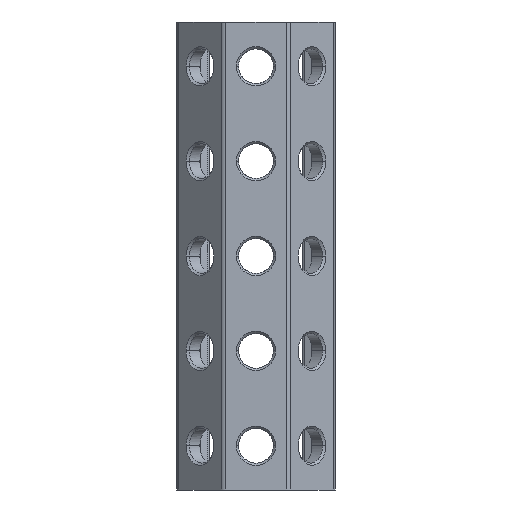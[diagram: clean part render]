
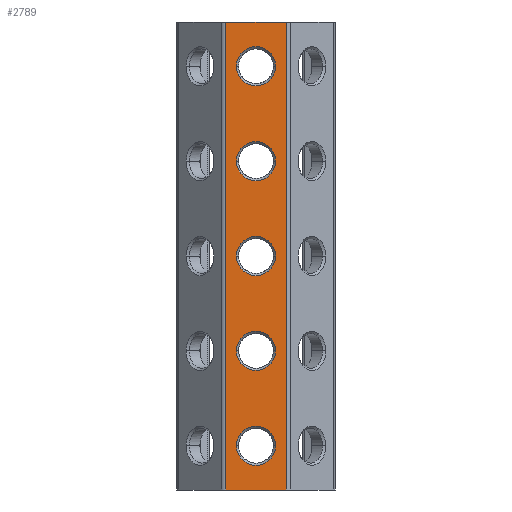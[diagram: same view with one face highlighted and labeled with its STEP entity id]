
A CAD part, left-side view. The second image highlights one B-rep face of the part: STEP entity #2789.
In plain terms, the highlighted planar face has unit normal (-1, 0, 0).
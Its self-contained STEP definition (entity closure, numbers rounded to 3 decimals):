
#789=CARTESIAN_POINT('Vertex',(-25.,-9.527,-148.)) ;
#794=CARTESIAN_POINT('Line Origine',(-25.,0.,-148.)) ;
#798=CARTESIAN_POINT('Vertex',(-25.,9.527,-148.)) ;
#1503=CARTESIAN_POINT('Vertex',(-25.,9.527,0.)) ;
#1506=CARTESIAN_POINT('Line Origine',(-25.,0.,0.)) ;
#1510=CARTESIAN_POINT('Vertex',(-25.,-9.527,0.)) ;
#2410=CARTESIAN_POINT('Line Origine',(-25.,9.527,-4078.)) ;
#2636=CARTESIAN_POINT('Line Origine',(-25.,-9.527,-4078.)) ;
#2648=CARTESIAN_POINT('Axis2P3D Location',(-25.,0.,-4078.)) ;
#2659=CARTESIAN_POINT('Axis2P3D Location',(-25.,0.,-14.)) ;
#2663=CARTESIAN_POINT('Vertex',(-25.,-3.1,-19.369)) ;
#2665=CARTESIAN_POINT('Vertex',(-25.,-6.2,-14.)) ;
#2668=CARTESIAN_POINT('Axis2P3D Location',(-25.,0.,-14.)) ;
#2672=CARTESIAN_POINT('Vertex',(-25.,6.2,-14.)) ;
#2675=CARTESIAN_POINT('Axis2P3D Location',(-25.,0.,-14.)) ;
#2685=CARTESIAN_POINT('Axis2P3D Location',(-25.,0.,-44.)) ;
#2689=CARTESIAN_POINT('Vertex',(-25.,-3.1,-49.369)) ;
#2691=CARTESIAN_POINT('Vertex',(-25.,-6.2,-44.)) ;
#2694=CARTESIAN_POINT('Axis2P3D Location',(-25.,0.,-44.)) ;
#2698=CARTESIAN_POINT('Vertex',(-25.,6.2,-44.)) ;
#2701=CARTESIAN_POINT('Axis2P3D Location',(-25.,0.,-44.)) ;
#2711=CARTESIAN_POINT('Axis2P3D Location',(-25.,0.,-74.)) ;
#2715=CARTESIAN_POINT('Vertex',(-25.,-3.1,-79.369)) ;
#2717=CARTESIAN_POINT('Vertex',(-25.,-6.2,-74.)) ;
#2720=CARTESIAN_POINT('Axis2P3D Location',(-25.,0.,-74.)) ;
#2724=CARTESIAN_POINT('Vertex',(-25.,6.2,-74.)) ;
#2727=CARTESIAN_POINT('Axis2P3D Location',(-25.,0.,-74.)) ;
#2737=CARTESIAN_POINT('Axis2P3D Location',(-25.,0.,-104.)) ;
#2741=CARTESIAN_POINT('Vertex',(-25.,-3.1,-109.369)) ;
#2743=CARTESIAN_POINT('Vertex',(-25.,-6.2,-104.)) ;
#2746=CARTESIAN_POINT('Axis2P3D Location',(-25.,0.,-104.)) ;
#2750=CARTESIAN_POINT('Vertex',(-25.,6.2,-104.)) ;
#2753=CARTESIAN_POINT('Axis2P3D Location',(-25.,0.,-104.)) ;
#2763=CARTESIAN_POINT('Axis2P3D Location',(-25.,0.,-134.)) ;
#2767=CARTESIAN_POINT('Vertex',(-25.,-3.1,-139.369)) ;
#2769=CARTESIAN_POINT('Vertex',(-25.,-6.2,-134.)) ;
#2772=CARTESIAN_POINT('Axis2P3D Location',(-25.,0.,-134.)) ;
#2776=CARTESIAN_POINT('Vertex',(-25.,6.2,-134.)) ;
#2779=CARTESIAN_POINT('Axis2P3D Location',(-25.,0.,-134.)) ;
#795=DIRECTION('Vector Direction',(0.,-1.,0.)) ;
#1507=DIRECTION('Vector Direction',(0.,-1.,0.)) ;
#2411=DIRECTION('Vector Direction',(0.,0.,1.)) ;
#2637=DIRECTION('Vector Direction',(0.,0.,1.)) ;
#2649=DIRECTION('Axis2P3D Direction',(-1.,0.,0.)) ;
#2650=DIRECTION('Axis2P3D XDirection',(0.,-1.,0.)) ;
#2660=DIRECTION('Axis2P3D Direction',(-1.,0.,0.)) ;
#2669=DIRECTION('Axis2P3D Direction',(-1.,0.,0.)) ;
#2676=DIRECTION('Axis2P3D Direction',(-1.,0.,0.)) ;
#2686=DIRECTION('Axis2P3D Direction',(-1.,0.,0.)) ;
#2695=DIRECTION('Axis2P3D Direction',(-1.,0.,0.)) ;
#2702=DIRECTION('Axis2P3D Direction',(-1.,0.,0.)) ;
#2712=DIRECTION('Axis2P3D Direction',(-1.,0.,0.)) ;
#2721=DIRECTION('Axis2P3D Direction',(-1.,0.,0.)) ;
#2728=DIRECTION('Axis2P3D Direction',(-1.,0.,0.)) ;
#2738=DIRECTION('Axis2P3D Direction',(-1.,0.,0.)) ;
#2747=DIRECTION('Axis2P3D Direction',(-1.,0.,0.)) ;
#2754=DIRECTION('Axis2P3D Direction',(-1.,0.,0.)) ;
#2764=DIRECTION('Axis2P3D Direction',(-1.,0.,0.)) ;
#2773=DIRECTION('Axis2P3D Direction',(-1.,0.,0.)) ;
#2780=DIRECTION('Axis2P3D Direction',(-1.,0.,0.)) ;
#2651=AXIS2_PLACEMENT_3D('Plane Axis2P3D',#2648,#2649,#2650) ;
#2661=AXIS2_PLACEMENT_3D('Circle Axis2P3D',#2659,#2660,$) ;
#2670=AXIS2_PLACEMENT_3D('Circle Axis2P3D',#2668,#2669,$) ;
#2677=AXIS2_PLACEMENT_3D('Circle Axis2P3D',#2675,#2676,$) ;
#2687=AXIS2_PLACEMENT_3D('Circle Axis2P3D',#2685,#2686,$) ;
#2696=AXIS2_PLACEMENT_3D('Circle Axis2P3D',#2694,#2695,$) ;
#2703=AXIS2_PLACEMENT_3D('Circle Axis2P3D',#2701,#2702,$) ;
#2713=AXIS2_PLACEMENT_3D('Circle Axis2P3D',#2711,#2712,$) ;
#2722=AXIS2_PLACEMENT_3D('Circle Axis2P3D',#2720,#2721,$) ;
#2729=AXIS2_PLACEMENT_3D('Circle Axis2P3D',#2727,#2728,$) ;
#2739=AXIS2_PLACEMENT_3D('Circle Axis2P3D',#2737,#2738,$) ;
#2748=AXIS2_PLACEMENT_3D('Circle Axis2P3D',#2746,#2747,$) ;
#2755=AXIS2_PLACEMENT_3D('Circle Axis2P3D',#2753,#2754,$) ;
#2765=AXIS2_PLACEMENT_3D('Circle Axis2P3D',#2763,#2764,$) ;
#2774=AXIS2_PLACEMENT_3D('Circle Axis2P3D',#2772,#2773,$) ;
#2781=AXIS2_PLACEMENT_3D('Circle Axis2P3D',#2779,#2780,$) ;
#2654=ORIENTED_EDGE('',*,*,#2640,.T.) ;
#2655=ORIENTED_EDGE('',*,*,#1512,.F.) ;
#2656=ORIENTED_EDGE('',*,*,#2414,.F.) ;
#2657=ORIENTED_EDGE('',*,*,#800,.T.) ;
#2681=ORIENTED_EDGE('',*,*,#2667,.F.) ;
#2682=ORIENTED_EDGE('',*,*,#2674,.F.) ;
#2683=ORIENTED_EDGE('',*,*,#2679,.F.) ;
#2707=ORIENTED_EDGE('',*,*,#2693,.F.) ;
#2708=ORIENTED_EDGE('',*,*,#2700,.F.) ;
#2709=ORIENTED_EDGE('',*,*,#2705,.F.) ;
#2733=ORIENTED_EDGE('',*,*,#2719,.F.) ;
#2734=ORIENTED_EDGE('',*,*,#2726,.F.) ;
#2735=ORIENTED_EDGE('',*,*,#2731,.F.) ;
#2759=ORIENTED_EDGE('',*,*,#2745,.F.) ;
#2760=ORIENTED_EDGE('',*,*,#2752,.F.) ;
#2761=ORIENTED_EDGE('',*,*,#2757,.F.) ;
#2785=ORIENTED_EDGE('',*,*,#2771,.F.) ;
#2786=ORIENTED_EDGE('',*,*,#2778,.F.) ;
#2787=ORIENTED_EDGE('',*,*,#2783,.F.) ;
#2684=FACE_BOUND('',#2680,.T.) ;
#2710=FACE_BOUND('',#2706,.T.) ;
#2736=FACE_BOUND('',#2732,.T.) ;
#2762=FACE_BOUND('',#2758,.T.) ;
#2788=FACE_BOUND('',#2784,.T.) ;
#796=VECTOR('Line Direction',#795,1.) ;
#1508=VECTOR('Line Direction',#1507,1.) ;
#2412=VECTOR('Line Direction',#2411,1.) ;
#2638=VECTOR('Line Direction',#2637,1.) ;
#2789=ADVANCED_FACE('\X2\51F853F0\X0\-\X2\62C94F38\X0\1',(#2658,#2684,#2710,#2736,#2762,#2788),#2652,.T.) ;
#2662=CIRCLE('generated circle',#2661,6.2) ;
#2671=CIRCLE('generated circle',#2670,6.2) ;
#2678=CIRCLE('generated circle',#2677,6.2) ;
#2688=CIRCLE('generated circle',#2687,6.2) ;
#2697=CIRCLE('generated circle',#2696,6.2) ;
#2704=CIRCLE('generated circle',#2703,6.2) ;
#2714=CIRCLE('generated circle',#2713,6.2) ;
#2723=CIRCLE('generated circle',#2722,6.2) ;
#2730=CIRCLE('generated circle',#2729,6.2) ;
#2740=CIRCLE('generated circle',#2739,6.2) ;
#2749=CIRCLE('generated circle',#2748,6.2) ;
#2756=CIRCLE('generated circle',#2755,6.2) ;
#2766=CIRCLE('generated circle',#2765,6.2) ;
#2775=CIRCLE('generated circle',#2774,6.2) ;
#2782=CIRCLE('generated circle',#2781,6.2) ;
#800=EDGE_CURVE('',#799,#790,#797,.T.) ;
#1512=EDGE_CURVE('',#1504,#1511,#1509,.T.) ;
#2414=EDGE_CURVE('',#799,#1504,#2413,.T.) ;
#2640=EDGE_CURVE('',#790,#1511,#2639,.T.) ;
#2667=EDGE_CURVE('',#2664,#2666,#2662,.T.) ;
#2674=EDGE_CURVE('',#2673,#2664,#2671,.T.) ;
#2679=EDGE_CURVE('',#2666,#2673,#2678,.T.) ;
#2693=EDGE_CURVE('',#2690,#2692,#2688,.T.) ;
#2700=EDGE_CURVE('',#2699,#2690,#2697,.T.) ;
#2705=EDGE_CURVE('',#2692,#2699,#2704,.T.) ;
#2719=EDGE_CURVE('',#2716,#2718,#2714,.T.) ;
#2726=EDGE_CURVE('',#2725,#2716,#2723,.T.) ;
#2731=EDGE_CURVE('',#2718,#2725,#2730,.T.) ;
#2745=EDGE_CURVE('',#2742,#2744,#2740,.T.) ;
#2752=EDGE_CURVE('',#2751,#2742,#2749,.T.) ;
#2757=EDGE_CURVE('',#2744,#2751,#2756,.T.) ;
#2771=EDGE_CURVE('',#2768,#2770,#2766,.T.) ;
#2778=EDGE_CURVE('',#2777,#2768,#2775,.T.) ;
#2783=EDGE_CURVE('',#2770,#2777,#2782,.T.) ;
#2653=EDGE_LOOP('',(#2654,#2655,#2656,#2657)) ;
#2680=EDGE_LOOP('',(#2681,#2682,#2683)) ;
#2706=EDGE_LOOP('',(#2707,#2708,#2709)) ;
#2732=EDGE_LOOP('',(#2733,#2734,#2735)) ;
#2758=EDGE_LOOP('',(#2759,#2760,#2761)) ;
#2784=EDGE_LOOP('',(#2785,#2786,#2787)) ;
#2658=FACE_OUTER_BOUND('',#2653,.T.) ;
#797=LINE('Line',#794,#796) ;
#1509=LINE('Line',#1506,#1508) ;
#2413=LINE('Line',#2410,#2412) ;
#2639=LINE('Line',#2636,#2638) ;
#2652=PLANE('',#2651) ;
#790=VERTEX_POINT('',#789) ;
#799=VERTEX_POINT('',#798) ;
#1504=VERTEX_POINT('',#1503) ;
#1511=VERTEX_POINT('',#1510) ;
#2664=VERTEX_POINT('',#2663) ;
#2666=VERTEX_POINT('',#2665) ;
#2673=VERTEX_POINT('',#2672) ;
#2690=VERTEX_POINT('',#2689) ;
#2692=VERTEX_POINT('',#2691) ;
#2699=VERTEX_POINT('',#2698) ;
#2716=VERTEX_POINT('',#2715) ;
#2718=VERTEX_POINT('',#2717) ;
#2725=VERTEX_POINT('',#2724) ;
#2742=VERTEX_POINT('',#2741) ;
#2744=VERTEX_POINT('',#2743) ;
#2751=VERTEX_POINT('',#2750) ;
#2768=VERTEX_POINT('',#2767) ;
#2770=VERTEX_POINT('',#2769) ;
#2777=VERTEX_POINT('',#2776) ;
